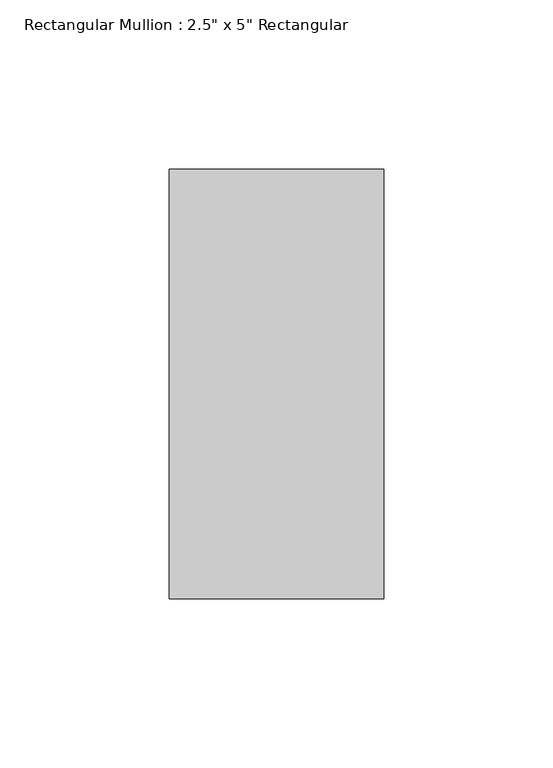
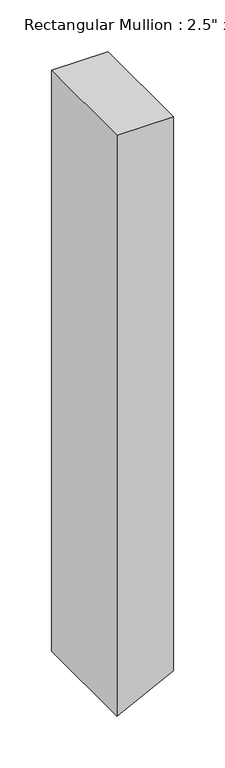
"""IFC4 building model written with IfcOpenShell, lengths in millimetres: member geometry."""

from ifc_helpers import new_model, si_unit, frame, origin, place, context, project, spatial, polyline, outline, extrude, source, transform, mapped, element, save


def member_69bae440(model_context):
    return source(origin(), model_context, "Body", "SweptSolid", [
        extrude(outline(polyline([(0.0, 31.75), (0.0, -31.75), (-687.1692831, -31.75), (-685.4933147, -28.3980633), (-655.4192831, 31.75), (0.0, 31.75)])), frame((0.0, -63.5, 0.0), z_axis=(0.0, 1.0, 0.0), x_axis=(0.0, 0.0, 1.0)), (0.0, 0.0, 1.0), 127.0),
    ])


if __name__ == "__main__":
    model = new_model("IFC4")
    model_context = context("Model", 3, world=origin())
    ifc_project = project(units=[si_unit("LENGTHUNIT", "METRE", prefix="MILLI")], contexts=[model_context])
    site = spatial("IfcSite", under=ifc_project)
    building = spatial("IfcBuilding", under=site)
    placement = place(None, origin())
    member_shape = member_69bae440(model_context)
    element("IfcMember", 1, ObjectType="Rectangular Mullion : 2.5\" x 5\" Rectangular", at=placement, inside=building, context=model_context, shape_type="MappedRepresentation", body=[
        mapped(member_shape, transform((0.0, 0.0, 0.0), x_axis=(1.0, 0.0, 0.0), y_axis=(0.0, 1.0, 0.0), z_axis=(0.0, 0.0, 1.0))),
    ])
    save(model, "model.ifc")
